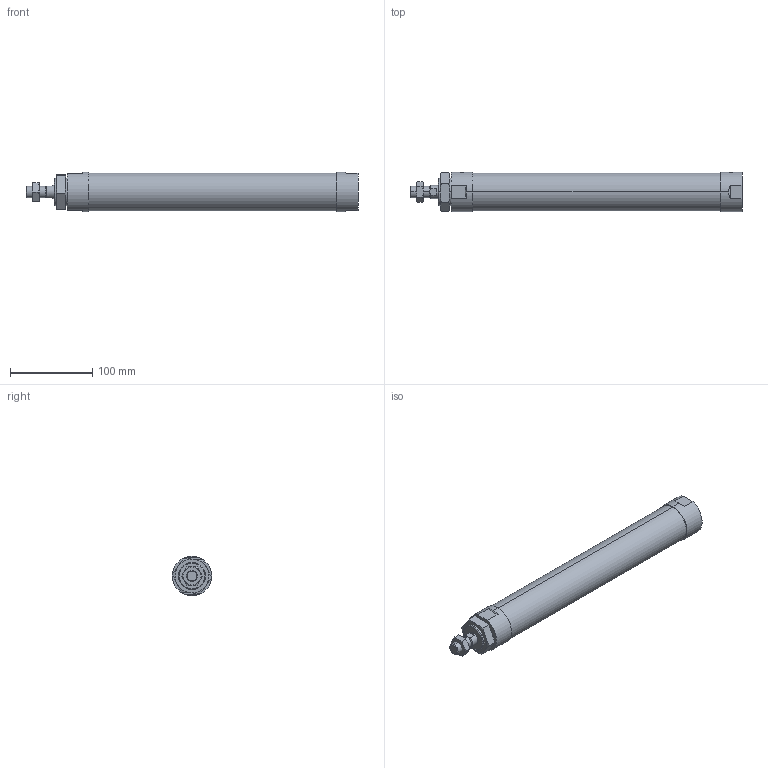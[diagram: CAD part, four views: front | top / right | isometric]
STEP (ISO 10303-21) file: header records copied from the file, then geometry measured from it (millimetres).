
FILE_DESCRIPTION (( 'STEP AP203' ), '1' );
FILE_NAME ('JGND2-40-250-N.STEP', '2016-08-04T03:15:36', ( '' ), ( '' ), 'SwSTEP 2.0', 'SolidWorks 2014', '' );
FILE_SCHEMA (( 'CONFIG_CONTROL_DESIGN' ));
Length unit declared in the file: millimetre
Products named in the file (4): J#2-40-250(P); JGND2-40-250-N
Assembly tree (3 placements, depth 2):
  JGND2-40-250-N
    J#2-40-250(P)
    (unnamed)
    (unnamed)
Bounding box: 403 x 48 x 48 mm (x, y, z)
Volume: 619660.8 mm3; surface area: 64967.8 mm2
Topology: 3 solids, 3 shells, 89 faces, 200 edges, 119 vertices
Faces by surface type: plane 32, torus 24, cylinder 20, cone 13
Entity records: 3305 total; most frequent: CARTESIAN_POINT 1001, DIRECTION 395, ORIENTED_EDGE 392, EDGE_CURVE 196, AXIS2_PLACEMENT_3D 167, VERTEX_POINT 119, EDGE_LOOP 99, ADVANCED_FACE 89
